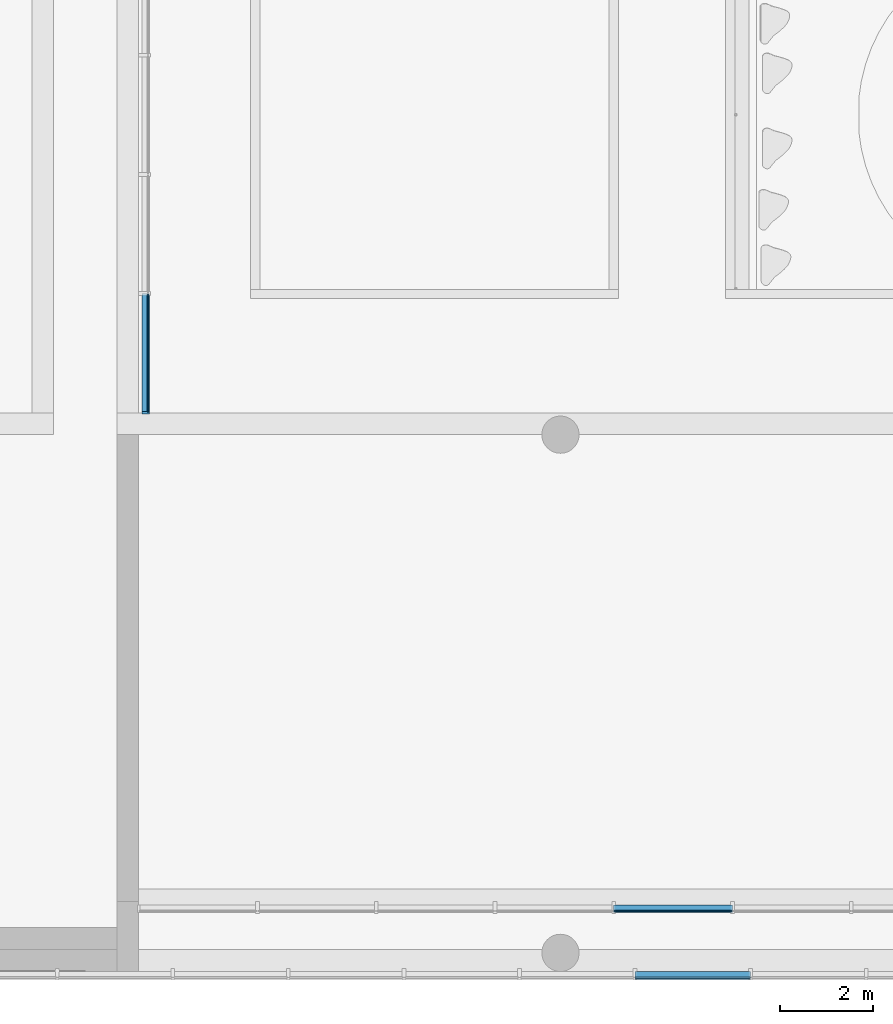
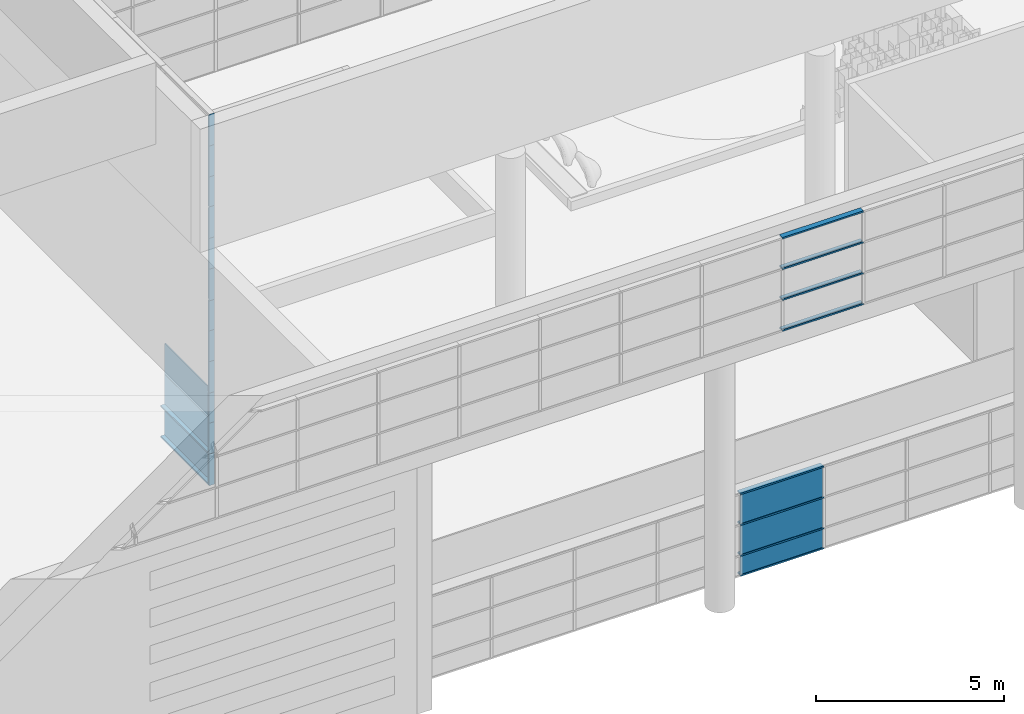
# One storey, part 23 of 105: 28 building element parts, 6 elements without a shape of their own.
"""IFC4 building model written with IfcOpenShell, lengths in millimetres."""

from ifc_helpers import new_model, entity, si_unit, converted_unit, derived_unit, direction, frame, origin_with_axes, place, context, subcontext, project, spatial, triangles, material, element, aggregate, save


model = new_model("IFC4")

# Units and contexts
model_context = context("Model", 3, precision=1e-05, world=origin_with_axes(), true_north=direction((0.0, 1.0)))
body_context = subcontext(model_context, "Body", "Model", "MODEL_VIEW")
ifc_project = project(units=[si_unit("LENGTHUNIT", "METRE", prefix="MILLI"), si_unit("AREAUNIT", "SQUARE_METRE"), si_unit("VOLUMEUNIT", "CUBIC_METRE"), converted_unit("PLANEANGLEUNIT", "DEGREE", entity("IfcLengthMeasure", 0.017453), si_unit("PLANEANGLEUNIT", "RADIAN"), dimensions=[0, 0, 0, 0, 0, 0, 0]), si_unit("SOLIDANGLEUNIT", "STERADIAN"), si_unit("MASSUNIT", "GRAM"), si_unit("TIMEUNIT", "SECOND"), si_unit("THERMODYNAMICTEMPERATUREUNIT", "DEGREE_CELSIUS"), si_unit("LUMINOUSINTENSITYUNIT", "LUMEN"), si_unit("POWERUNIT", "WATT"), derived_unit("THERMALTRANSMITTANCEUNIT", [(si_unit("POWERUNIT", "WATT"), 1), (si_unit("THERMODYNAMICTEMPERATUREUNIT", "KELVIN"), -1), (si_unit("AREAUNIT", "SQUARE_METRE"), -1)])], contexts=[model_context])

# Site, building, storey
site_placement = place(None, origin_with_axes())
site = spatial("IfcSite", under=ifc_project, at=site_placement, Name="Default Site", CompositionType="ELEMENT")
building_placement = place(site_placement, origin_with_axes())
building = spatial("IfcBuilding", under=site, at=building_placement, Name="Default Building", CompositionType="ELEMENT")
storey_placement = place(building_placement, origin_with_axes())
storey = spatial("IfcBuildingStorey", under=building, at=storey_placement, Name="OG - Story", CompositionType="ELEMENT", Elevation=0.0)

# Curtain wall, building element parts
curtain_wall_1_placement = place(storey_placement, origin_with_axes())
curtain_wall_1 = element("IfcCurtainWall", 1, at=curtain_wall_1_placement, inside=storey, Name="Fassade-001", PredefinedType="NOTDEFINED")
ifc_material_1 = material(Name="Normalglas")
building_element_part_1_placement = place(curtain_wall_1_placement, frame((52496.845873, -51289.262838, 0.0), z_axis=(0.0, 0.0, 1.0), x_axis=(1.0, 0.0, 0.0)))
building_element_part_1 = element("IfcBuildingElementPart", 2, at=building_element_part_1_placement, material=ifc_material_1, Name="Normalglas", PredefinedType="NOTDEFINED", context=body_context, shape_type="Tessellation", body=[
    triangles([(11469.091, 15.0, 645.0), (8938.182, 15.0, 645.0), (8938.182, -14.999, 645.0), (11469.091, -14.999, 645.0), (11469.091, 15.0, 5.0), (8938.182, 15.0, 5.0), (8938.182, -14.999, 5.0), (11469.091, -14.999, 5.0)], [[1, 2, 3], [1, 3, 4], [1, 5, 6], [1, 6, 2], [2, 6, 7], [2, 7, 3], [4, 3, 7], [4, 7, 8], [5, 1, 4], [5, 4, 8], [6, 5, 8], [6, 8, 7]], closed=False),
])
building_element_part_2_placement = place(curtain_wall_1_placement, frame((52496.845873, -51289.262838, 0.0), z_axis=(0.0, 0.0, 1.0), x_axis=(1.0, 0.0, 0.0)))
building_element_part_2 = element("IfcBuildingElementPart", 3, at=building_element_part_2_placement, material=ifc_material_1, Name="Normalglas", PredefinedType="NOTDEFINED", context=body_context, shape_type="Tessellation", body=[
    triangles([(11469.091, 15.0, 1645.0), (8938.182, 15.0, 1645.0), (8938.182, -14.999, 1645.0), (11469.091, -14.999, 1645.0), (11469.091, 15.0, 655.0), (8938.182, 15.0, 655.0), (8938.182, -14.999, 655.0), (11469.091, -14.999, 655.0)], [[1, 2, 3], [1, 3, 4], [1, 5, 6], [1, 6, 2], [2, 6, 7], [2, 7, 3], [4, 3, 7], [4, 7, 8], [5, 1, 4], [5, 4, 8], [6, 5, 8], [6, 8, 7]], closed=False),
])
building_element_part_3_placement = place(curtain_wall_1_placement, frame((52496.845873, -51289.262838, 0.0), z_axis=(0.0, 0.0, 1.0), x_axis=(1.0, 0.0, 0.0)))
building_element_part_3 = element("IfcBuildingElementPart", 4, at=building_element_part_3_placement, material=ifc_material_1, Name="Normalglas", PredefinedType="NOTDEFINED", context=body_context, shape_type="Tessellation", body=[
    triangles([(11469.091, 15.0, 2645.0), (8938.182, 15.0, 2645.0), (8938.182, -14.999, 2645.0), (11469.091, -14.999, 2645.0), (11469.091, 15.0, 1655.0), (8938.182, 15.0, 1655.0), (8938.182, -14.999, 1655.0), (11469.091, -14.999, 1655.0)], [[1, 2, 3], [1, 3, 4], [1, 5, 6], [1, 6, 2], [2, 6, 7], [2, 7, 3], [4, 3, 7], [4, 7, 8], [5, 1, 4], [5, 4, 8], [6, 5, 8], [6, 8, 7]], closed=False),
])
ifc_material_2 = material(Name="Blech")
building_element_part_4_placement = place(curtain_wall_1_placement, frame((52496.845873, -51289.262838, 0.0), z_axis=(0.0, 0.0, 1.0), x_axis=(1.0, 0.0, 0.0)))
building_element_part_4 = element("IfcBuildingElementPart", 5, at=building_element_part_4_placement, material=ifc_material_2, Name="Blech", PredefinedType="NOTDEFINED", context=body_context, shape_type="Tessellation", body=[
    triangles([(11479.091, 15.0, 25.0), (11479.091, 133.0, 25.0), (11479.091, 15.0, 5.0), (11479.091, 133.0, -24.999), (11479.091, -14.999, 5.0), (11479.091, -34.999, -24.999), (11479.091, -14.999, 25.0), (11479.091, -34.999, 25.0), (8928.182, 15.0, 5.0), (8928.182, -14.999, 5.0), (8928.182, -14.999, 25.0), (8928.182, -34.999, 25.0), (8928.182, -34.999, -24.999), (8928.182, 133.0, -24.999), (8928.182, 133.0, 25.0), (8928.182, 15.0, 25.0)], [[1, 2, 3], [3, 2, 4], [3, 4, 5], [5, 4, 6], [5, 6, 7], [7, 6, 8], [5, 3, 9], [5, 9, 10], [11, 7, 5], [11, 5, 10], [7, 11, 12], [7, 12, 8], [13, 6, 8], [13, 8, 12], [14, 4, 6], [14, 6, 13], [15, 2, 4], [15, 4, 14], [16, 1, 2], [16, 2, 15], [3, 1, 16], [3, 16, 9], [16, 15, 9], [9, 15, 14], [9, 14, 10], [10, 14, 13], [10, 13, 11], [11, 13, 12]], closed=False),
])
building_element_part_5_placement = place(curtain_wall_1_placement, frame((52496.845873, -51289.262838, 0.0), z_axis=(0.0, 0.0, 1.0), x_axis=(1.0, 0.0, 0.0)))
building_element_part_5 = element("IfcBuildingElementPart", 6, at=building_element_part_5_placement, material=ifc_material_2, Name="Blech", PredefinedType="NOTDEFINED", context=body_context, shape_type="Tessellation", body=[
    triangles([(11479.091, 133.0, 675.0), (11479.091, 15.0, 675.0), (11479.091, 133.0, 625.0), (11479.091, 15.0, 655.0), (11479.091, 15.0, 645.0), (11479.091, -14.999, 655.0), (11479.091, -14.999, 645.0), (11479.091, -14.999, 625.0), (11479.091, -14.999, 675.0), (11479.091, -34.999, 675.0), (11479.091, -34.999, 625.0), (11479.091, 15.0, 625.0), (8928.182, 15.0, 645.0), (8928.182, 15.0, 625.0), (8928.182, 133.0, 625.0), (8928.182, 133.0, 675.0), (8928.182, 15.0, 675.0), (8928.182, 15.0, 655.0), (8928.182, -14.999, 655.0), (8928.182, -14.999, 675.0), (8928.182, -34.999, 675.0), (8928.182, -34.999, 625.0), (8928.182, -14.999, 625.0), (8928.182, -14.999, 645.0)], [[1, 2, 3], [3, 2, 4], [3, 4, 5], [5, 4, 6], [5, 6, 7], [8, 9, 10], [8, 10, 11], [3, 5, 12], [12, 5, 13], [12, 13, 14], [12, 14, 15], [12, 15, 3], [1, 3, 15], [1, 15, 16], [2, 1, 16], [2, 16, 17], [2, 17, 18], [2, 18, 4], [4, 18, 19], [4, 19, 6], [9, 6, 19], [9, 19, 20], [20, 21, 10], [20, 10, 9], [11, 10, 21], [11, 21, 22], [23, 8, 11], [23, 11, 22], [7, 8, 23], [7, 23, 24], [5, 7, 24], [5, 24, 13], [15, 14, 16], [16, 14, 13], [16, 13, 18], [18, 13, 24], [18, 24, 19], [20, 23, 22], [20, 22, 21], [16, 18, 17]], closed=False),
])
building_element_part_6_placement = place(curtain_wall_1_placement, frame((52496.845873, -51289.262838, 0.0), z_axis=(0.0, 0.0, 1.0), x_axis=(1.0, 0.0, 0.0)))
building_element_part_6 = element("IfcBuildingElementPart", 7, at=building_element_part_6_placement, material=ifc_material_2, Name="Blech", PredefinedType="NOTDEFINED", context=body_context, shape_type="Tessellation", body=[
    triangles([(11479.091, 133.0, 1675.0), (11479.091, 15.0, 1675.0), (11479.091, 133.0, 1625.0), (11479.091, 15.0, 1655.0), (11479.091, 15.0, 1645.0), (11479.091, -14.999, 1655.0), (11479.091, -14.999, 1645.0), (11479.091, -14.999, 1625.0), (11479.091, -14.999, 1675.0), (11479.091, -34.999, 1675.0), (11479.091, -34.999, 1625.0), (11479.091, 15.0, 1625.0), (8928.182, 15.0, 1645.0), (8928.182, 15.0, 1625.0), (8928.182, 133.0, 1625.0), (8928.182, 133.0, 1675.0), (8928.182, 15.0, 1675.0), (8928.182, 15.0, 1655.0), (8928.182, -14.999, 1655.0), (8928.182, -14.999, 1675.0), (8928.182, -34.999, 1675.0), (8928.182, -34.999, 1625.0), (8928.182, -14.999, 1625.0), (8928.182, -14.999, 1645.0)], [[1, 2, 3], [3, 2, 4], [3, 4, 5], [5, 4, 6], [5, 6, 7], [8, 9, 10], [8, 10, 11], [3, 5, 12], [12, 5, 13], [12, 13, 14], [12, 14, 15], [12, 15, 3], [1, 3, 15], [1, 15, 16], [2, 1, 16], [2, 16, 17], [2, 17, 18], [2, 18, 4], [4, 18, 19], [4, 19, 6], [9, 6, 19], [9, 19, 20], [20, 21, 10], [20, 10, 9], [11, 10, 21], [11, 21, 22], [23, 8, 11], [23, 11, 22], [7, 8, 23], [7, 23, 24], [5, 7, 24], [5, 24, 13], [15, 14, 16], [16, 14, 13], [16, 13, 18], [18, 13, 24], [18, 24, 19], [20, 23, 22], [20, 22, 21], [16, 18, 17]], closed=False),
])
building_element_part_7_placement = place(curtain_wall_1_placement, frame((52496.845873, -51289.262838, 0.0), z_axis=(0.0, 0.0, 1.0), x_axis=(1.0, 0.0, 0.0)))
building_element_part_7 = element("IfcBuildingElementPart", 8, at=building_element_part_7_placement, material=ifc_material_2, Name="Blech", PredefinedType="NOTDEFINED", context=body_context, shape_type="Tessellation", body=[
    triangles([(11479.091, 15.0, 2625.0), (11479.091, 133.0, 2625.0), (11479.091, 15.0, 2645.0), (11479.091, 133.0, 2675.0), (11479.091, -14.999, 2645.0), (11479.091, -34.999, 2675.0), (11479.091, -14.999, 2625.0), (11479.091, -34.999, 2625.0), (8928.182, 15.0, 2645.0), (8928.182, 15.0, 2625.0), (8928.182, 133.0, 2625.0), (8928.182, 133.0, 2675.0), (8928.182, -34.999, 2675.0), (8928.182, -34.999, 2625.0), (8928.182, -14.999, 2625.0), (8928.182, -14.999, 2645.0)], [[1, 2, 3], [3, 2, 4], [3, 4, 5], [5, 4, 6], [5, 6, 7], [7, 6, 8], [3, 9, 10], [3, 10, 1], [10, 11, 2], [10, 2, 1], [11, 12, 4], [11, 4, 2], [12, 13, 6], [12, 6, 4], [13, 14, 8], [13, 8, 6], [7, 8, 14], [7, 14, 15], [15, 16, 5], [15, 5, 7], [5, 16, 9], [5, 9, 3], [10, 11, 9], [9, 11, 12], [9, 12, 16], [16, 12, 13], [16, 13, 15], [15, 13, 14]], closed=False),
])
aggregate(curtain_wall_1, [building_element_part_1, building_element_part_2, building_element_part_3, building_element_part_4, building_element_part_5, building_element_part_6, building_element_part_7])

curtain_wall_2_placement = place(storey_placement, origin_with_axes())
curtain_wall_2 = element("IfcCurtainWall", 9, at=curtain_wall_2_placement, inside=storey, Name="Fassade-002", PredefinedType="NOTDEFINED")
building_element_part_8_placement = place(curtain_wall_2_placement, frame((33339.077852, -52722.262838, 8660.317768), z_axis=(0.0, 0.0, 1.0), x_axis=(1.0, 0.0, 0.0)))
building_element_part_8 = element("IfcBuildingElementPart", 10, at=building_element_part_8_placement, material=ifc_material_2, Name="Blech", PredefinedType="NOTDEFINED", context=body_context, shape_type="Tessellation", body=[
    triangles([(31026.161, 15.0, 25.0), (31026.161, 133.0, 25.0), (31026.161, 15.0, 5.0), (31026.161, 133.0, -24.999), (31026.161, -14.999, 5.0), (31026.161, -34.999, -24.999), (31026.161, -14.999, 25.0), (31026.161, -34.999, 25.0), (28544.068, 15.0, 5.0), (28544.068, -14.999, 5.0), (28544.068, -14.999, 25.0), (28544.068, -34.999, 25.0), (28544.068, -34.999, -24.999), (28544.068, 133.0, -24.999), (28544.068, 133.0, 25.0), (28544.068, 15.0, 25.0)], [[1, 2, 3], [3, 2, 4], [3, 4, 5], [5, 4, 6], [5, 6, 7], [7, 6, 8], [5, 3, 9], [5, 9, 10], [11, 7, 5], [11, 5, 10], [7, 11, 12], [7, 12, 8], [13, 6, 8], [13, 8, 12], [14, 4, 6], [14, 6, 13], [15, 2, 4], [15, 4, 14], [16, 1, 2], [16, 2, 15], [3, 1, 16], [3, 16, 9], [16, 15, 9], [9, 15, 14], [9, 14, 10], [10, 14, 13], [10, 13, 11], [11, 13, 12]], closed=False),
])
building_element_part_9_placement = place(curtain_wall_2_placement, frame((33339.077852, -52722.262838, 8660.317768), z_axis=(0.0, 0.0, 1.0), x_axis=(1.0, 0.0, 0.0)))
building_element_part_9 = element("IfcBuildingElementPart", 11, at=building_element_part_9_placement, material=ifc_material_2, Name="Blech", PredefinedType="NOTDEFINED", context=body_context, shape_type="Tessellation", body=[
    triangles([(31026.161, 133.0, 1025.0), (31026.161, 15.0, 1025.0), (31026.161, 133.0, 975.0), (31026.161, 15.0, 1005.0), (31026.161, 15.0, 995.0), (31026.161, -14.999, 1005.0), (31026.161, -14.999, 995.0), (31026.161, -14.999, 975.0), (31026.161, -14.999, 1025.0), (31026.161, -34.999, 1025.0), (31026.161, -34.999, 975.0), (31026.161, 15.0, 975.0), (28544.068, 15.0, 995.0), (28544.068, 15.0, 975.0), (28544.068, 133.0, 975.0), (28544.068, 133.0, 1025.0), (28544.068, 15.0, 1025.0), (28544.068, 15.0, 1005.0), (28544.068, -14.999, 1005.0), (28544.068, -14.999, 1025.0), (28544.068, -34.999, 1025.0), (28544.068, -34.999, 975.0), (28544.068, -14.999, 975.0), (28544.068, -14.999, 995.0)], [[1, 2, 3], [3, 2, 4], [3, 4, 5], [5, 4, 6], [5, 6, 7], [8, 9, 10], [8, 10, 11], [3, 5, 12], [12, 5, 13], [12, 13, 14], [12, 14, 15], [12, 15, 3], [1, 3, 15], [1, 15, 16], [2, 1, 16], [2, 16, 17], [2, 17, 18], [2, 18, 4], [4, 18, 19], [4, 19, 6], [9, 6, 19], [9, 19, 20], [20, 21, 10], [20, 10, 9], [11, 10, 21], [11, 21, 22], [23, 8, 11], [23, 11, 22], [7, 8, 23], [7, 23, 24], [5, 7, 24], [5, 24, 13], [15, 14, 16], [16, 14, 13], [16, 13, 18], [18, 13, 24], [18, 24, 19], [20, 23, 22], [20, 22, 21], [16, 18, 17]], closed=False),
])
building_element_part_10_placement = place(curtain_wall_2_placement, frame((33339.077852, -52722.262838, 8660.317768), z_axis=(0.0, 0.0, 1.0), x_axis=(1.0, 0.0, 0.0)))
building_element_part_10 = element("IfcBuildingElementPart", 12, at=building_element_part_10_placement, material=ifc_material_2, Name="Blech", PredefinedType="NOTDEFINED", context=body_context, shape_type="Tessellation", body=[
    triangles([(31026.161, 133.0, 2025.0), (31026.161, 15.0, 2025.0), (31026.161, 133.0, 1975.0), (31026.161, 15.0, 2005.0), (31026.161, 15.0, 1995.0), (31026.161, -14.999, 2005.0), (31026.161, -14.999, 1995.0), (31026.161, -14.999, 1975.0), (31026.161, -14.999, 2025.0), (31026.161, -34.999, 2025.0), (31026.161, -34.999, 1975.0), (31026.161, 15.0, 1975.0), (28544.068, 15.0, 1995.0), (28544.068, 15.0, 1975.0), (28544.068, 133.0, 1975.0), (28544.068, 133.0, 2025.0), (28544.068, 15.0, 2025.0), (28544.068, 15.0, 2005.0), (28544.068, -14.999, 2005.0), (28544.068, -14.999, 2025.0), (28544.068, -34.999, 2025.0), (28544.068, -34.999, 1975.0), (28544.068, -14.999, 1975.0), (28544.068, -14.999, 1995.0)], [[1, 2, 3], [3, 2, 4], [3, 4, 5], [5, 4, 6], [5, 6, 7], [8, 9, 10], [8, 10, 11], [3, 5, 12], [12, 5, 13], [12, 13, 14], [12, 14, 15], [12, 15, 3], [1, 3, 15], [1, 15, 16], [2, 1, 16], [2, 16, 17], [2, 17, 18], [2, 18, 4], [4, 18, 19], [4, 19, 6], [9, 6, 19], [9, 19, 20], [20, 21, 10], [20, 10, 9], [11, 10, 21], [11, 21, 22], [23, 8, 11], [23, 11, 22], [7, 8, 23], [7, 23, 24], [5, 7, 24], [5, 24, 13], [15, 14, 16], [16, 14, 13], [16, 13, 18], [18, 13, 24], [18, 24, 19], [20, 23, 22], [20, 22, 21], [16, 18, 17]], closed=False),
])
building_element_part_11_placement = place(curtain_wall_2_placement, frame((33339.077852, -52722.262838, 8660.317768), z_axis=(0.0, 0.0, 1.0), x_axis=(1.0, 0.0, 0.0)))
building_element_part_11 = element("IfcBuildingElementPart", 13, at=building_element_part_11_placement, material=ifc_material_2, Name="Blech", PredefinedType="NOTDEFINED", context=body_context, shape_type="Tessellation", body=[
    triangles([(31026.161, 15.0, 2975.0), (31026.161, 133.0, 2975.0), (31026.161, 15.0, 2995.0), (31026.161, 133.0, 3025.0), (31026.161, -14.999, 2995.0), (31026.161, -34.999, 3025.0), (31026.161, -14.999, 2975.0), (31026.161, -34.999, 2975.0), (28544.068, 15.0, 2995.0), (28544.068, 15.0, 2975.0), (28544.068, 133.0, 2975.0), (28544.068, 133.0, 3025.0), (28544.068, -34.999, 3025.0), (28544.068, -34.999, 2975.0), (28544.068, -14.999, 2975.0), (28544.068, -14.999, 2995.0)], [[1, 2, 3], [3, 2, 4], [3, 4, 5], [5, 4, 6], [5, 6, 7], [7, 6, 8], [3, 9, 10], [3, 10, 1], [10, 11, 2], [10, 2, 1], [11, 12, 4], [11, 4, 2], [12, 13, 6], [12, 6, 4], [13, 14, 8], [13, 8, 6], [7, 8, 14], [7, 14, 15], [15, 16, 5], [15, 5, 7], [5, 16, 9], [5, 9, 3], [10, 11, 9], [9, 11, 12], [9, 12, 16], [16, 12, 13], [16, 13, 15], [15, 13, 14]], closed=False),
])
aggregate(curtain_wall_2, [building_element_part_8, building_element_part_9, building_element_part_10, building_element_part_11])

curtain_wall_3_placement = place(storey_placement, origin_with_axes())
curtain_wall_3 = element("IfcCurtainWall", 14, at=curtain_wall_3_placement, inside=storey, Name="Fassade-006", PredefinedType="NOTDEFINED")
building_element_part_12_placement = place(curtain_wall_3_placement, frame((51421.391327, -39309.262838, 0.0), z_axis=(0.0, 0.0, 1.0), x_axis=(1.0, 0.0, 0.0)))
building_element_part_12 = element("IfcBuildingElementPart", 15, at=building_element_part_12_placement, material=ifc_material_1, Name="Normalglas", PredefinedType="NOTDEFINED", context=body_context, shape_type="Tessellation", body=[
    triangles([(-14.999, 1270.0, 995.0), (-14.999, -1274.999, 995.0), (15.0, -1274.999, 995.0), (15.0, 1270.0, 995.0), (-14.999, 1270.0, 5.0), (-14.999, -1274.999, 5.0), (15.0, -1274.999, 5.0), (15.0, 1270.0, 5.0)], [[1, 2, 3], [1, 3, 4], [1, 5, 6], [1, 6, 2], [2, 6, 7], [2, 7, 3], [4, 3, 7], [4, 7, 8], [5, 1, 4], [5, 4, 8], [6, 5, 8], [6, 8, 7]], closed=False),
])
building_element_part_13_placement = place(curtain_wall_3_placement, frame((51421.391327, -39309.262838, 0.0), z_axis=(0.0, 0.0, 1.0), x_axis=(1.0, 0.0, 0.0)))
building_element_part_13 = element("IfcBuildingElementPart", 16, at=building_element_part_13_placement, material=ifc_material_1, Name="Normalglas", PredefinedType="NOTDEFINED", context=body_context, shape_type="Tessellation", body=[
    triangles([(-14.999, 1270.0, 1995.0), (-14.999, -1274.999, 1995.0), (15.0, -1274.999, 1995.0), (15.0, 1270.0, 1995.0), (-14.999, 1270.0, 1005.0), (-14.999, -1274.999, 1005.0), (15.0, -1274.999, 1005.0), (15.0, 1270.0, 1005.0)], [[1, 2, 3], [1, 3, 4], [1, 5, 6], [1, 6, 2], [2, 6, 7], [2, 7, 3], [4, 3, 7], [4, 7, 8], [5, 1, 4], [5, 4, 8], [6, 5, 8], [6, 8, 7]], closed=False),
])
building_element_part_14_placement = place(curtain_wall_3_placement, frame((51421.391327, -39309.262838, 0.0), z_axis=(0.0, 0.0, 1.0), x_axis=(1.0, 0.0, 0.0)))
building_element_part_14 = element("IfcBuildingElementPart", 17, at=building_element_part_14_placement, material=ifc_material_1, Name="Normalglas", PredefinedType="NOTDEFINED", context=body_context, shape_type="Tessellation", body=[
    triangles([(-14.999, 1270.0, 2995.0), (-14.999, -1274.999, 2995.0), (15.0, -1274.999, 2995.0), (15.0, 1270.0, 2995.0), (-14.999, 1270.0, 2005.0), (-14.999, -1274.999, 2005.0), (15.0, -1274.999, 2005.0), (15.0, 1270.0, 2005.0)], [[1, 2, 3], [1, 3, 4], [1, 5, 6], [1, 6, 2], [2, 6, 7], [2, 7, 3], [4, 3, 7], [4, 7, 8], [5, 1, 4], [5, 4, 8], [6, 5, 8], [6, 8, 7]], closed=False),
])
building_element_part_15_placement = place(curtain_wall_3_placement, frame((51421.391327, -39309.262838, 0.0), z_axis=(0.0, 0.0, 1.0), x_axis=(1.0, 0.0, 0.0)))
building_element_part_15 = element("IfcBuildingElementPart", 18, at=building_element_part_15_placement, material=ifc_material_2, Name="Blech", PredefinedType="NOTDEFINED", context=body_context, shape_type="Tessellation", body=[
    triangles([(15.0, 1280.0, 5.0), (-14.999, 1280.0, 5.0), (-132.999, 1280.0, -24.999), (35.0, 1280.0, -24.999), (35.0, 1280.0, 25.0), (15.0, 1280.0, 25.0), (-132.999, 1280.0, 25.0), (-14.999, 1280.0, 25.0), (-14.999, -1274.999, 5.0), (15.0, -1274.999, 5.0), (15.0, -1254.999, 25.0), (35.0, -1254.999, 25.0), (35.0, -1304.999, -24.999), (-132.999, -1304.999, -24.999), (-132.999, -1254.999, 25.0), (-14.999, -1254.999, 25.0)], [[1, 2, 3], [1, 3, 4], [1, 4, 5], [1, 5, 6], [7, 3, 2], [7, 2, 8], [1, 2, 9], [1, 9, 10], [11, 6, 1], [11, 1, 10], [6, 11, 12], [6, 12, 5], [4, 5, 12], [4, 12, 13], [3, 4, 13], [3, 13, 14], [7, 3, 14], [7, 14, 15], [16, 8, 7], [16, 7, 15], [2, 8, 16], [2, 16, 9], [16, 15, 9], [9, 15, 14], [9, 14, 10], [10, 14, 13], [10, 13, 12], [10, 12, 11]], closed=False),
])
building_element_part_16_placement = place(curtain_wall_3_placement, frame((51421.391327, -39309.262838, 0.0), z_axis=(0.0, 0.0, 1.0), x_axis=(1.0, 0.0, 0.0)))
building_element_part_16 = element("IfcBuildingElementPart", 19, at=building_element_part_16_placement, material=ifc_material_2, Name="Blech", PredefinedType="NOTDEFINED", context=body_context, shape_type="Tessellation", body=[
    triangles([(35.0, -1304.999, 1000.0), (35.0, -1254.999, 1000.0), (15.0, -1254.999, 1000.0), (15.0, -1274.999, 1000.0), (-14.999, -1274.999, 1000.0), (-132.999, -1254.999, 1000.0), (-132.999, -1304.999, 1000.0), (-14.999, -1254.999, 1000.0), (-14.999, -1274.999, 5.0), (-14.999, -1254.999, 25.0), (-132.999, -1254.999, 25.0), (-132.999, -1304.999, -24.999), (35.0, -1304.999, -24.999), (35.0, -1254.999, 25.0), (15.0, -1254.999, 25.0), (15.0, -1274.999, 5.0)], [[1, 2, 3], [1, 3, 4], [1, 4, 5], [1, 5, 6], [1, 6, 7], [8, 6, 5], [5, 9, 10], [5, 10, 8], [10, 11, 6], [10, 6, 8], [6, 11, 12], [6, 12, 7], [7, 12, 13], [7, 13, 1], [1, 13, 14], [1, 14, 2], [3, 2, 14], [3, 14, 15], [15, 16, 4], [15, 4, 3], [4, 16, 9], [4, 9, 5], [16, 9, 12], [16, 12, 13], [16, 13, 14], [16, 14, 15], [11, 12, 9], [11, 9, 10]], closed=False),
])
building_element_part_17_placement = place(curtain_wall_3_placement, frame((51421.391327, -39309.262838, 0.0), z_axis=(0.0, 0.0, 1.0), x_axis=(1.0, 0.0, 0.0)))
building_element_part_17 = element("IfcBuildingElementPart", 20, at=building_element_part_17_placement, material=ifc_material_2, Name="Blech", PredefinedType="NOTDEFINED", context=body_context, shape_type="Tessellation", body=[
    triangles([(15.0, 1280.0, 1025.0), (35.0, 1280.0, 1025.0), (15.0, 1280.0, 1005.0), (15.0, 1280.0, 995.0), (-14.999, 1280.0, 1005.0), (-132.999, 1280.0, 1025.0), (-14.999, 1280.0, 1025.0), (35.0, 1280.0, 975.0), (15.0, 1280.0, 975.0), (-14.999, 1280.0, 995.0), (-14.999, 1280.0, 975.0), (-132.999, 1280.0, 975.0), (-14.999, -1254.999, 995.0), (-14.999, -1254.999, 975.0), (-132.999, -1254.999, 975.0), (-132.999, -1254.999, 1025.0), (-14.999, -1254.999, 1025.0), (-14.999, -1254.999, 1005.0), (15.0, -1254.999, 1005.0), (15.0, -1254.999, 1025.0), (35.0, -1254.999, 1025.0), (35.0, -1254.999, 975.0), (15.0, -1254.999, 975.0), (15.0, -1254.999, 995.0)], [[1, 2, 3], [3, 2, 4], [3, 4, 5], [5, 4, 6], [5, 6, 7], [8, 9, 4], [8, 4, 2], [6, 4, 10], [6, 10, 11], [6, 11, 12], [11, 10, 13], [11, 13, 14], [11, 14, 15], [11, 15, 12], [12, 15, 16], [12, 16, 6], [7, 6, 16], [7, 16, 17], [7, 17, 18], [7, 18, 5], [5, 18, 19], [5, 19, 3], [1, 3, 19], [1, 19, 20], [20, 21, 2], [20, 2, 1], [2, 21, 22], [2, 22, 8], [23, 9, 8], [23, 8, 22], [4, 9, 23], [4, 23, 24], [10, 4, 24], [10, 24, 13], [17, 16, 18], [18, 16, 13], [18, 13, 19], [19, 13, 24], [19, 24, 21], [21, 24, 23], [21, 23, 22], [15, 14, 13], [15, 13, 16], [19, 21, 20]], closed=False),
])
building_element_part_18_placement = place(curtain_wall_3_placement, frame((51421.391327, -39309.262838, 0.0), z_axis=(0.0, 0.0, 1.0), x_axis=(1.0, 0.0, 0.0)))
building_element_part_18 = element("IfcBuildingElementPart", 21, at=building_element_part_18_placement, material=ifc_material_2, Name="Blech", PredefinedType="NOTDEFINED", context=body_context, shape_type="Tessellation", body=[
    triangles([(35.0, -1304.999, 2000.0), (35.0, -1254.999, 2000.0), (15.0, -1254.999, 2000.0), (15.0, -1274.999, 2000.0), (-14.999, -1274.999, 2000.0), (-132.999, -1254.999, 2000.0), (-132.999, -1304.999, 2000.0), (-14.999, -1254.999, 2000.0), (-14.999, -1274.999, 1000.0), (-14.999, -1254.999, 1000.0), (-132.999, -1254.999, 1000.0), (-132.999, -1304.999, 1000.0), (35.0, -1304.999, 1000.0), (35.0, -1254.999, 1000.0), (15.0, -1254.999, 1000.0), (15.0, -1274.999, 1000.0)], [[1, 2, 3], [1, 3, 4], [1, 4, 5], [1, 5, 6], [1, 6, 7], [8, 6, 5], [5, 9, 10], [5, 10, 8], [10, 11, 6], [10, 6, 8], [11, 12, 7], [11, 7, 6], [12, 13, 1], [12, 1, 7], [13, 14, 2], [13, 2, 1], [3, 2, 14], [3, 14, 15], [15, 16, 4], [15, 4, 3], [4, 16, 9], [4, 9, 5], [15, 16, 13], [13, 16, 9], [13, 9, 11], [11, 9, 10], [13, 11, 12], [15, 13, 14]], closed=False),
])
building_element_part_19_placement = place(curtain_wall_3_placement, frame((51421.391327, -39309.262838, 0.0), z_axis=(0.0, 0.0, 1.0), x_axis=(1.0, 0.0, 0.0)))
building_element_part_19 = element("IfcBuildingElementPart", 22, at=building_element_part_19_placement, material=ifc_material_2, Name="Blech", PredefinedType="NOTDEFINED", context=body_context, shape_type="Tessellation", body=[
    triangles([(15.0, -1274.999, 2995.0), (-14.999, -1274.999, 2995.0), (-132.999, -1304.999, 3025.0), (35.0, -1304.999, 3025.0), (35.0, -1254.999, 2975.0), (15.0, -1254.999, 2975.0), (-14.999, -1254.999, 2975.0), (-132.999, -1254.999, 2975.0), (-14.999, -1274.999, 2000.0), (-14.999, -1254.999, 2000.0), (-132.999, -1254.999, 2000.0), (-132.999, -1304.999, 2000.0), (35.0, -1304.999, 2000.0), (35.0, -1254.999, 2000.0), (15.0, -1254.999, 2000.0), (15.0, -1274.999, 2000.0)], [[1, 2, 3], [1, 3, 4], [1, 4, 5], [1, 5, 6], [7, 8, 3], [7, 3, 2], [2, 9, 10], [2, 10, 7], [10, 11, 8], [10, 8, 7], [11, 12, 3], [11, 3, 8], [12, 13, 4], [12, 4, 3], [13, 14, 5], [13, 5, 4], [6, 5, 14], [6, 14, 15], [15, 16, 1], [15, 1, 6], [1, 16, 9], [1, 9, 2], [15, 16, 13], [13, 16, 9], [13, 9, 11], [11, 9, 10], [13, 11, 12], [15, 13, 14]], closed=False),
])
aggregate(curtain_wall_3, [building_element_part_12, building_element_part_13, building_element_part_14, building_element_part_15, building_element_part_16, building_element_part_17, building_element_part_18, building_element_part_19])

curtain_wall_4_placement = place(storey_placement, origin_with_axes())
curtain_wall_4 = element("IfcCurtainWall", 23, at=curtain_wall_4_placement, inside=storey, Name="Fassade-006", PredefinedType="NOTDEFINED")
building_element_part_20_placement = place(curtain_wall_4_placement, frame((51421.391327, -39309.262838, 3000.0), z_axis=(0.0, 0.0, 1.0), x_axis=(1.0, 0.0, 0.0)))
building_element_part_20 = element("IfcBuildingElementPart", 24, at=building_element_part_20_placement, material=ifc_material_2, Name="Blech", PredefinedType="NOTDEFINED", context=body_context, shape_type="Tessellation", body=[
    triangles([(35.0, -1304.999, 1000.0), (35.0, -1254.999, 1000.0), (15.0, -1254.999, 1000.0), (15.0, -1274.999, 1000.0), (-14.999, -1274.999, 1000.0), (-132.999, -1254.999, 1000.0), (-132.999, -1304.999, 1000.0), (-14.999, -1254.999, 1000.0), (-14.999, -1274.999, 5.0), (-14.999, -1254.999, 25.0), (-132.999, -1254.999, 25.0), (-132.999, -1304.999, -24.999), (35.0, -1304.999, -24.999), (35.0, -1254.999, 25.0), (15.0, -1254.999, 25.0), (15.0, -1274.999, 5.0)], [[1, 2, 3], [1, 3, 4], [1, 4, 5], [1, 5, 6], [1, 6, 7], [8, 6, 5], [5, 9, 10], [5, 10, 8], [10, 11, 6], [10, 6, 8], [6, 11, 12], [6, 12, 7], [7, 12, 13], [7, 13, 1], [1, 13, 14], [1, 14, 2], [3, 2, 14], [3, 14, 15], [15, 16, 4], [15, 4, 3], [4, 16, 9], [4, 9, 5], [16, 9, 12], [16, 12, 13], [16, 13, 14], [16, 14, 15], [11, 12, 9], [11, 9, 10]], closed=False),
])
building_element_part_21_placement = place(curtain_wall_4_placement, frame((51421.391327, -39309.262838, 3000.0), z_axis=(0.0, 0.0, 1.0), x_axis=(1.0, 0.0, 0.0)))
building_element_part_21 = element("IfcBuildingElementPart", 25, at=building_element_part_21_placement, material=ifc_material_2, Name="Blech", PredefinedType="NOTDEFINED", context=body_context, shape_type="Tessellation", body=[
    triangles([(35.0, -1304.999, 2000.0), (35.0, -1254.999, 2000.0), (15.0, -1254.999, 2000.0), (15.0, -1274.999, 2000.0), (-14.999, -1274.999, 2000.0), (-132.999, -1254.999, 2000.0), (-132.999, -1304.999, 2000.0), (-14.999, -1254.999, 2000.0), (-14.999, -1274.999, 1000.0), (-14.999, -1254.999, 1000.0), (-132.999, -1254.999, 1000.0), (-132.999, -1304.999, 1000.0), (35.0, -1304.999, 1000.0), (35.0, -1254.999, 1000.0), (15.0, -1254.999, 1000.0), (15.0, -1274.999, 1000.0)], [[1, 2, 3], [1, 3, 4], [1, 4, 5], [1, 5, 6], [1, 6, 7], [8, 6, 5], [5, 9, 10], [5, 10, 8], [10, 11, 6], [10, 6, 8], [11, 12, 7], [11, 7, 6], [12, 13, 1], [12, 1, 7], [13, 14, 2], [13, 2, 1], [3, 2, 14], [3, 14, 15], [15, 16, 4], [15, 4, 3], [4, 16, 9], [4, 9, 5], [15, 16, 13], [13, 16, 9], [13, 9, 11], [11, 9, 10], [13, 11, 12], [15, 13, 14]], closed=False),
])
building_element_part_22_placement = place(curtain_wall_4_placement, frame((51421.391327, -39309.262838, 3000.0), z_axis=(0.0, 0.0, 1.0), x_axis=(1.0, 0.0, 0.0)))
building_element_part_22 = element("IfcBuildingElementPart", 26, at=building_element_part_22_placement, material=ifc_material_2, Name="Blech", PredefinedType="NOTDEFINED", context=body_context, shape_type="Tessellation", body=[
    triangles([(15.0, -1274.999, 2995.0), (-14.999, -1274.999, 2995.0), (-132.999, -1304.999, 3025.0), (35.0, -1304.999, 3025.0), (35.0, -1254.999, 2975.0), (15.0, -1254.999, 2975.0), (-14.999, -1254.999, 2975.0), (-132.999, -1254.999, 2975.0), (-14.999, -1274.999, 2000.0), (-14.999, -1254.999, 2000.0), (-132.999, -1254.999, 2000.0), (-132.999, -1304.999, 2000.0), (35.0, -1304.999, 2000.0), (35.0, -1254.999, 2000.0), (15.0, -1254.999, 2000.0), (15.0, -1274.999, 2000.0)], [[1, 2, 3], [1, 3, 4], [1, 4, 5], [1, 5, 6], [7, 8, 3], [7, 3, 2], [2, 9, 10], [2, 10, 7], [10, 11, 8], [10, 8, 7], [11, 12, 3], [11, 3, 8], [12, 13, 4], [12, 4, 3], [13, 14, 5], [13, 5, 4], [6, 5, 14], [6, 14, 15], [15, 16, 1], [15, 1, 6], [1, 16, 9], [1, 9, 2], [15, 16, 13], [13, 16, 9], [13, 9, 11], [11, 9, 10], [13, 11, 12], [15, 13, 14]], closed=False),
])
aggregate(curtain_wall_4, [building_element_part_20, building_element_part_21, building_element_part_22])

curtain_wall_5_placement = place(storey_placement, origin_with_axes())
curtain_wall_5 = element("IfcCurtainWall", 27, at=curtain_wall_5_placement, inside=storey, Name="Fassade-006", PredefinedType="NOTDEFINED")
building_element_part_23_placement = place(curtain_wall_5_placement, frame((51421.391327, -39309.262838, 6000.0), z_axis=(0.0, 0.0, 1.0), x_axis=(1.0, 0.0, 0.0)))
building_element_part_23 = element("IfcBuildingElementPart", 28, at=building_element_part_23_placement, material=ifc_material_2, Name="Blech", PredefinedType="NOTDEFINED", context=body_context, shape_type="Tessellation", body=[
    triangles([(35.0, -1304.999, 1000.0), (35.0, -1254.999, 1000.0), (15.0, -1254.999, 1000.0), (15.0, -1274.999, 1000.0), (-14.999, -1274.999, 1000.0), (-132.999, -1254.999, 1000.0), (-132.999, -1304.999, 1000.0), (-14.999, -1254.999, 1000.0), (-14.999, -1274.999, 5.0), (-14.999, -1254.999, 25.0), (-132.999, -1254.999, 25.0), (-132.999, -1304.999, -24.999), (35.0, -1304.999, -24.999), (35.0, -1254.999, 25.0), (15.0, -1254.999, 25.0), (15.0, -1274.999, 5.0)], [[1, 2, 3], [1, 3, 4], [1, 4, 5], [1, 5, 6], [1, 6, 7], [8, 6, 5], [5, 9, 10], [5, 10, 8], [10, 11, 6], [10, 6, 8], [6, 11, 12], [6, 12, 7], [7, 12, 13], [7, 13, 1], [1, 13, 14], [1, 14, 2], [3, 2, 14], [3, 14, 15], [15, 16, 4], [15, 4, 3], [4, 16, 9], [4, 9, 5], [16, 9, 12], [16, 12, 13], [16, 13, 14], [16, 14, 15], [11, 12, 9], [11, 9, 10]], closed=False),
])
building_element_part_24_placement = place(curtain_wall_5_placement, frame((51421.391327, -39309.262838, 6000.0), z_axis=(0.0, 0.0, 1.0), x_axis=(1.0, 0.0, 0.0)))
building_element_part_24 = element("IfcBuildingElementPart", 29, at=building_element_part_24_placement, material=ifc_material_2, Name="Blech", PredefinedType="NOTDEFINED", context=body_context, shape_type="Tessellation", body=[
    triangles([(35.0, -1304.999, 2000.0), (35.0, -1254.999, 2000.0), (15.0, -1254.999, 2000.0), (15.0, -1274.999, 2000.0), (-14.999, -1274.999, 2000.0), (-132.999, -1254.999, 2000.0), (-132.999, -1304.999, 2000.0), (-14.999, -1254.999, 2000.0), (-14.999, -1274.999, 1000.0), (-14.999, -1254.999, 1000.0), (-132.999, -1254.999, 1000.0), (-132.999, -1304.999, 1000.0), (35.0, -1304.999, 1000.0), (35.0, -1254.999, 1000.0), (15.0, -1254.999, 1000.0), (15.0, -1274.999, 1000.0)], [[1, 2, 3], [1, 3, 4], [1, 4, 5], [1, 5, 6], [1, 6, 7], [8, 6, 5], [5, 9, 10], [5, 10, 8], [10, 11, 6], [10, 6, 8], [11, 12, 7], [11, 7, 6], [12, 13, 1], [12, 1, 7], [13, 14, 2], [13, 2, 1], [3, 2, 14], [3, 14, 15], [15, 16, 4], [15, 4, 3], [4, 16, 9], [4, 9, 5], [15, 16, 13], [13, 16, 9], [13, 9, 11], [11, 9, 10], [13, 11, 12], [15, 13, 14]], closed=False),
])
building_element_part_25_placement = place(curtain_wall_5_placement, frame((51421.391327, -39309.262838, 6000.0), z_axis=(0.0, 0.0, 1.0), x_axis=(1.0, 0.0, 0.0)))
building_element_part_25 = element("IfcBuildingElementPart", 30, at=building_element_part_25_placement, material=ifc_material_2, Name="Blech", PredefinedType="NOTDEFINED", context=body_context, shape_type="Tessellation", body=[
    triangles([(15.0, -1274.999, 2995.0), (-14.999, -1274.999, 2995.0), (-132.999, -1304.999, 3025.0), (35.0, -1304.999, 3025.0), (35.0, -1254.999, 2975.0), (15.0, -1254.999, 2975.0), (-14.999, -1254.999, 2975.0), (-132.999, -1254.999, 2975.0), (-14.999, -1274.999, 2000.0), (-14.999, -1254.999, 2000.0), (-132.999, -1254.999, 2000.0), (-132.999, -1304.999, 2000.0), (35.0, -1304.999, 2000.0), (35.0, -1254.999, 2000.0), (15.0, -1254.999, 2000.0), (15.0, -1274.999, 2000.0)], [[1, 2, 3], [1, 3, 4], [1, 4, 5], [1, 5, 6], [7, 8, 3], [7, 3, 2], [2, 9, 10], [2, 10, 7], [10, 11, 8], [10, 8, 7], [11, 12, 3], [11, 3, 8], [12, 13, 4], [12, 4, 3], [13, 14, 5], [13, 5, 4], [6, 5, 14], [6, 14, 15], [15, 16, 1], [15, 1, 6], [1, 16, 9], [1, 9, 2], [15, 16, 13], [13, 16, 9], [13, 9, 11], [11, 9, 10], [13, 11, 12], [15, 13, 14]], closed=False),
])
aggregate(curtain_wall_5, [building_element_part_23, building_element_part_24, building_element_part_25])

curtain_wall_6_placement = place(storey_placement, origin_with_axes())
curtain_wall_6 = element("IfcCurtainWall", 31, at=curtain_wall_6_placement, inside=storey, Name="Fassade-006", PredefinedType="NOTDEFINED")
building_element_part_26_placement = place(curtain_wall_6_placement, frame((51421.391327, -39309.262838, 9000.0), z_axis=(0.0, 0.0, 1.0), x_axis=(1.0, 0.0, 0.0)))
building_element_part_26 = element("IfcBuildingElementPart", 32, at=building_element_part_26_placement, material=ifc_material_2, Name="Blech", PredefinedType="NOTDEFINED", context=body_context, shape_type="Tessellation", body=[
    triangles([(35.0, -1304.999, 1000.0), (35.0, -1254.999, 1000.0), (15.0, -1254.999, 1000.0), (15.0, -1274.999, 1000.0), (-14.999, -1274.999, 1000.0), (-132.999, -1254.999, 1000.0), (-132.999, -1304.999, 1000.0), (-14.999, -1254.999, 1000.0), (-14.999, -1274.999, 5.0), (-14.999, -1254.999, 25.0), (-132.999, -1254.999, 25.0), (-132.999, -1304.999, -24.999), (35.0, -1304.999, -24.999), (35.0, -1254.999, 25.0), (15.0, -1254.999, 25.0), (15.0, -1274.999, 5.0)], [[1, 2, 3], [1, 3, 4], [1, 4, 5], [1, 5, 6], [1, 6, 7], [8, 6, 5], [5, 9, 10], [5, 10, 8], [10, 11, 6], [10, 6, 8], [6, 11, 12], [6, 12, 7], [7, 12, 13], [7, 13, 1], [1, 13, 14], [1, 14, 2], [3, 2, 14], [3, 14, 15], [15, 16, 4], [15, 4, 3], [4, 16, 9], [4, 9, 5], [16, 9, 12], [16, 12, 13], [16, 13, 14], [16, 14, 15], [11, 12, 9], [11, 9, 10]], closed=False),
])
building_element_part_27_placement = place(curtain_wall_6_placement, frame((51421.391327, -39309.262838, 9000.0), z_axis=(0.0, 0.0, 1.0), x_axis=(1.0, 0.0, 0.0)))
building_element_part_27 = element("IfcBuildingElementPart", 33, at=building_element_part_27_placement, material=ifc_material_2, Name="Blech", PredefinedType="NOTDEFINED", context=body_context, shape_type="Tessellation", body=[
    triangles([(35.0, -1304.999, 2000.0), (35.0, -1254.999, 2000.0), (15.0, -1254.999, 2000.0), (15.0, -1274.999, 2000.0), (-14.999, -1274.999, 2000.0), (-132.999, -1254.999, 2000.0), (-132.999, -1304.999, 2000.0), (-14.999, -1254.999, 2000.0), (-14.999, -1274.999, 1000.0), (-14.999, -1254.999, 1000.0), (-132.999, -1254.999, 1000.0), (-132.999, -1304.999, 1000.0), (35.0, -1304.999, 1000.0), (35.0, -1254.999, 1000.0), (15.0, -1254.999, 1000.0), (15.0, -1274.999, 1000.0)], [[1, 2, 3], [1, 3, 4], [1, 4, 5], [1, 5, 6], [1, 6, 7], [8, 6, 5], [5, 9, 10], [5, 10, 8], [10, 11, 6], [10, 6, 8], [11, 12, 7], [11, 7, 6], [12, 13, 1], [12, 1, 7], [13, 14, 2], [13, 2, 1], [3, 2, 14], [3, 14, 15], [15, 16, 4], [15, 4, 3], [4, 16, 9], [4, 9, 5], [15, 16, 13], [13, 16, 9], [13, 9, 11], [11, 9, 10], [13, 11, 12], [15, 13, 14]], closed=False),
])
building_element_part_28_placement = place(curtain_wall_6_placement, frame((51421.391327, -39309.262838, 9000.0), z_axis=(0.0, 0.0, 1.0), x_axis=(1.0, 0.0, 0.0)))
building_element_part_28 = element("IfcBuildingElementPart", 34, at=building_element_part_28_placement, material=ifc_material_2, Name="Blech", PredefinedType="NOTDEFINED", context=body_context, shape_type="Tessellation", body=[
    triangles([(15.0, -1274.999, 2995.0), (-14.999, -1274.999, 2995.0), (-132.999, -1304.999, 3025.0), (35.0, -1304.999, 3025.0), (35.0, -1254.999, 2975.0), (15.0, -1254.999, 2975.0), (-14.999, -1254.999, 2975.0), (-132.999, -1254.999, 2975.0), (-14.999, -1274.999, 2000.0), (-14.999, -1254.999, 2000.0), (-132.999, -1254.999, 2000.0), (-132.999, -1304.999, 2000.0), (35.0, -1304.999, 2000.0), (35.0, -1254.999, 2000.0), (15.0, -1254.999, 2000.0), (15.0, -1274.999, 2000.0)], [[1, 2, 3], [1, 3, 4], [1, 4, 5], [1, 5, 6], [7, 8, 3], [7, 3, 2], [2, 9, 10], [2, 10, 7], [10, 11, 8], [10, 8, 7], [11, 12, 3], [11, 3, 8], [12, 13, 4], [12, 4, 3], [13, 14, 5], [13, 5, 4], [6, 5, 14], [6, 14, 15], [15, 16, 1], [15, 1, 6], [1, 16, 9], [1, 9, 2], [15, 16, 13], [13, 16, 9], [13, 9, 11], [11, 9, 10], [13, 11, 12], [15, 13, 14]], closed=False),
])
aggregate(curtain_wall_6, [building_element_part_26, building_element_part_27, building_element_part_28])

save(model, "model.ifc")
